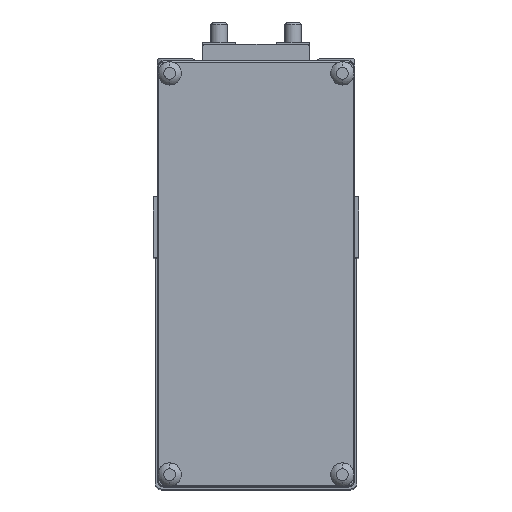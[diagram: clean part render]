
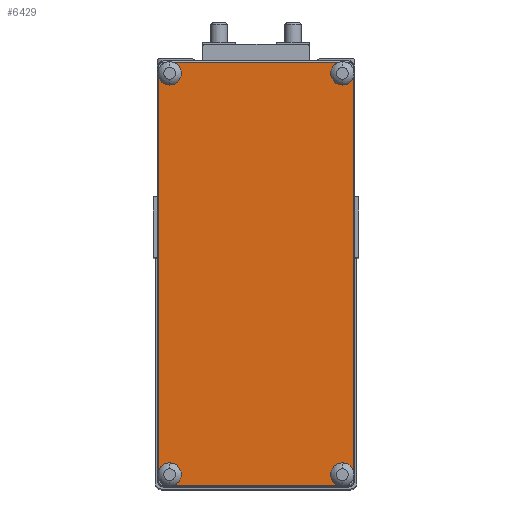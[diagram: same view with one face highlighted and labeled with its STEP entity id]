
A CAD part, top view. The second image highlights one B-rep face of the part: STEP entity #6429.
In plain terms, the highlighted planar face has unit normal (0, 0, 1).
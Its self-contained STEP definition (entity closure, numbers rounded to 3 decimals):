
#381 = EDGE_CURVE ( 'NONE', #33668, #47402, #6403, .T. ) ;
#718 = CARTESIAN_POINT ( 'NONE',  ( -23.7, -5.912, 68.5 ) ) ;
#2055 = CARTESIAN_POINT ( 'NONE',  ( 21., -102.5, 68.5 ) ) ;
#2467 = CIRCLE ( 'NONE', #42048, 2.85 ) ;
#3079 = DIRECTION ( 'NONE',  ( 0., 0., 1. ) ) ;
#3101 = CIRCLE ( 'NONE', #32989, 2.85 ) ;
#3287 = CIRCLE ( 'NONE', #46923, 2.85 ) ;
#3671 = CARTESIAN_POINT ( 'NONE',  ( -18.15, -102.544, 68.5 ) ) ;
#5127 = DIRECTION ( 'NONE',  ( 1., -0.015, 0. ) ) ;
#5606 = EDGE_CURVE ( 'NONE', #32875, #24908, #6086, .T. ) ;
#6004 = FACE_OUTER_BOUND ( 'NONE', #29194, .T. ) ;
#6086 = CIRCLE ( 'NONE', #23845, 2.85 ) ;
#6403 = CIRCLE ( 'NONE', #44344, 2.85 ) ;
#6429 = ADVANCED_FACE ( 'NONE', ( #6004 ), #21423, .F. ) ;
#7272 = EDGE_CURVE ( 'NONE', #49073, #47926, #33935, .T. ) ;
#7404 = EDGE_CURVE ( 'NONE', #14079, #21599, #3287, .T. ) ;
#7673 = EDGE_CURVE ( 'NONE', #13254, #33668, #14599, .T. ) ;
#7837 = VECTOR ( 'NONE', #29284, 1000. ) ;
#7997 = CARTESIAN_POINT ( 'NONE',  ( 0., -2.3, 68.5 ) ) ;
#8114 = CARTESIAN_POINT ( 'NONE',  ( -21., -102.5, 68.5 ) ) ;
#8824 = ORIENTED_EDGE ( 'NONE', *, *, #7272, .F. ) ;
#8987 = DIRECTION ( 'NONE',  ( 0., 0., 1. ) ) ;
#9229 = DIRECTION ( 'NONE',  ( 0., -1., 0. ) ) ;
#9510 = CARTESIAN_POINT ( 'NONE',  ( -23.7, -101.588, 68.5 ) ) ;
#10299 = CARTESIAN_POINT ( 'NONE',  ( 0., -53.75, 68.5 ) ) ;
#12771 = LINE ( 'NONE', #28193, #37325 ) ;
#13133 = ORIENTED_EDGE ( 'NONE', *, *, #39013, .F. ) ;
#13208 = DIRECTION ( 'NONE',  ( 1., -0.015, 0. ) ) ;
#13254 = VERTEX_POINT ( 'NONE', #9510 ) ;
#13864 = CARTESIAN_POINT ( 'NONE',  ( 0., -105.2, 68.5 ) ) ;
#14079 = VERTEX_POINT ( 'NONE', #26490 ) ;
#14599 = CIRCLE ( 'NONE', #35576, 2.85 ) ;
#15072 = LINE ( 'NONE', #7997, #22582 ) ;
#15943 = DIRECTION ( 'NONE',  ( -1., 0., 0. ) ) ;
#15976 = LINE ( 'NONE', #46095, #25078 ) ;
#16263 = CARTESIAN_POINT ( 'NONE',  ( 21., -5., 68.5 ) ) ;
#16829 = ORIENTED_EDGE ( 'NONE', *, *, #28199, .F. ) ;
#16999 = DIRECTION ( 'NONE',  ( 0., 0., 1. ) ) ;
#17019 = CARTESIAN_POINT ( 'NONE',  ( 23.7, -5.912, 68.5 ) ) ;
#17175 = ORIENTED_EDGE ( 'NONE', *, *, #5606, .F. ) ;
#17374 = DIRECTION ( 'NONE',  ( 0., 0., 1. ) ) ;
#17613 = DIRECTION ( 'NONE',  ( 0., 0., 1. ) ) ;
#18323 = CARTESIAN_POINT ( 'NONE',  ( -20.088, -105.2, 68.5 ) ) ;
#18358 = CARTESIAN_POINT ( 'NONE',  ( 21., -5., 68.5 ) ) ;
#18597 = AXIS2_PLACEMENT_3D ( 'NONE', #24952, #17374, #40130 ) ;
#19574 = ORIENTED_EDGE ( 'NONE', *, *, #381, .T. ) ;
#20072 = DIRECTION ( 'NONE',  ( 0., 0., -1. ) ) ;
#20585 = DIRECTION ( 'NONE',  ( -1., 0., 0. ) ) ;
#20627 = VERTEX_POINT ( 'NONE', #25852 ) ;
#21089 = ORIENTED_EDGE ( 'NONE', *, *, #45361, .F. ) ;
#21164 = DIRECTION ( 'NONE',  ( 0., -1., 0. ) ) ;
#21423 = PLANE ( 'NONE',  #38743 ) ;
#21432 = ORIENTED_EDGE ( 'NONE', *, *, #39108, .T. ) ;
#21599 = VERTEX_POINT ( 'NONE', #17019 ) ;
#21919 = DIRECTION ( 'NONE',  ( 1., -0.015, 0. ) ) ;
#22582 = VECTOR ( 'NONE', #26986, 1000. ) ;
#23079 = DIRECTION ( 'NONE',  ( 0., 1., 0. ) ) ;
#23494 = CARTESIAN_POINT ( 'NONE',  ( 18.15, -102.456, 68.5 ) ) ;
#23718 = EDGE_CURVE ( 'NONE', #39712, #44880, #15072, .T. ) ;
#23845 = AXIS2_PLACEMENT_3D ( 'NONE', #36024, #8987, #28202 ) ;
#24052 = ORIENTED_EDGE ( 'NONE', *, *, #7673, .T. ) ;
#24908 = VERTEX_POINT ( 'NONE', #23494 ) ;
#24952 = CARTESIAN_POINT ( 'NONE',  ( -21., -5., 68.5 ) ) ;
#25078 = VECTOR ( 'NONE', #23079, 1000. ) ;
#25852 = CARTESIAN_POINT ( 'NONE',  ( 20.088, -105.2, 68.5 ) ) ;
#25968 = EDGE_CURVE ( 'NONE', #47402, #20627, #33060, .T. ) ;
#26219 = DIRECTION ( 'NONE',  ( 0., 0., -1. ) ) ;
#26490 = CARTESIAN_POINT ( 'NONE',  ( 18.15, -4.956, 68.5 ) ) ;
#26986 = DIRECTION ( 'NONE',  ( -1., 0., 0. ) ) ;
#28193 = CARTESIAN_POINT ( 'NONE',  ( -23.7, -53.75, 68.5 ) ) ;
#28199 = EDGE_CURVE ( 'NONE', #39712, #14079, #3101, .T. ) ;
#28202 = DIRECTION ( 'NONE',  ( 1., -0.015, 0. ) ) ;
#28566 = ORIENTED_EDGE ( 'NONE', *, *, #41998, .T. ) ;
#29194 = EDGE_LOOP ( 'NONE', ( #36723, #21089, #17175, #21432, #46418, #16829, #47490, #13133, #8824, #28566, #24052, #19574 ) ) ;
#29284 = DIRECTION ( 'NONE',  ( 1., 0., 0. ) ) ;
#31382 = CARTESIAN_POINT ( 'NONE',  ( -18.15, -5.044, 68.5 ) ) ;
#32875 = VERTEX_POINT ( 'NONE', #41992 ) ;
#32989 = AXIS2_PLACEMENT_3D ( 'NONE', #18358, #17613, #21919 ) ;
#33060 = LINE ( 'NONE', #13864, #7837 ) ;
#33668 = VERTEX_POINT ( 'NONE', #3671 ) ;
#33935 = CIRCLE ( 'NONE', #18597, 2.85 ) ;
#34234 = AXIS2_PLACEMENT_3D ( 'NONE', #2055, #43814, #5127 ) ;
#35273 = CARTESIAN_POINT ( 'NONE',  ( -20.088, -2.3, 68.5 ) ) ;
#35576 = AXIS2_PLACEMENT_3D ( 'NONE', #8114, #38946, #15943 ) ;
#35863 = CIRCLE ( 'NONE', #34234, 2.85 ) ;
#36024 = CARTESIAN_POINT ( 'NONE',  ( 21., -102.5, 68.5 ) ) ;
#36723 = ORIENTED_EDGE ( 'NONE', *, *, #25968, .T. ) ;
#37325 = VECTOR ( 'NONE', #9229, 1000. ) ;
#38743 = AXIS2_PLACEMENT_3D ( 'NONE', #10299, #26219, #21164 ) ;
#38946 = DIRECTION ( 'NONE',  ( 0., 0., -1. ) ) ;
#39013 = EDGE_CURVE ( 'NONE', #47926, #44880, #2467, .T. ) ;
#39108 = EDGE_CURVE ( 'NONE', #32875, #21599, #15976, .T. ) ;
#39418 = CARTESIAN_POINT ( 'NONE',  ( 20.088, -2.3, 68.5 ) ) ;
#39712 = VERTEX_POINT ( 'NONE', #39418 ) ;
#39795 = CARTESIAN_POINT ( 'NONE',  ( -21., -102.5, 68.5 ) ) ;
#40130 = DIRECTION ( 'NONE',  ( 1., -0.015, 0. ) ) ;
#41778 = CARTESIAN_POINT ( 'NONE',  ( -21., -5., 68.5 ) ) ;
#41992 = CARTESIAN_POINT ( 'NONE',  ( 23.7, -101.588, 68.5 ) ) ;
#41998 = EDGE_CURVE ( 'NONE', #49073, #13254, #12771, .T. ) ;
#42048 = AXIS2_PLACEMENT_3D ( 'NONE', #41778, #3079, #45085 ) ;
#43814 = DIRECTION ( 'NONE',  ( 0., 0., 1. ) ) ;
#44344 = AXIS2_PLACEMENT_3D ( 'NONE', #39795, #20072, #20585 ) ;
#44880 = VERTEX_POINT ( 'NONE', #35273 ) ;
#45085 = DIRECTION ( 'NONE',  ( 1., -0.015, 0. ) ) ;
#45361 = EDGE_CURVE ( 'NONE', #24908, #20627, #35863, .T. ) ;
#46095 = CARTESIAN_POINT ( 'NONE',  ( 23.7, -53.75, 68.5 ) ) ;
#46418 = ORIENTED_EDGE ( 'NONE', *, *, #7404, .F. ) ;
#46923 = AXIS2_PLACEMENT_3D ( 'NONE', #16263, #16999, #13208 ) ;
#47402 = VERTEX_POINT ( 'NONE', #18323 ) ;
#47490 = ORIENTED_EDGE ( 'NONE', *, *, #23718, .T. ) ;
#47926 = VERTEX_POINT ( 'NONE', #31382 ) ;
#49073 = VERTEX_POINT ( 'NONE', #718 ) ;
